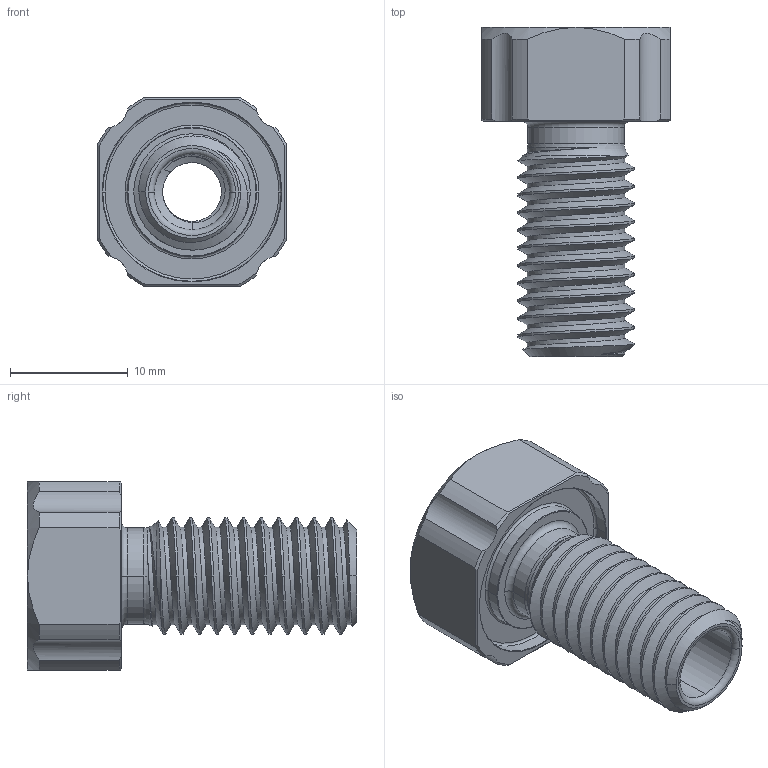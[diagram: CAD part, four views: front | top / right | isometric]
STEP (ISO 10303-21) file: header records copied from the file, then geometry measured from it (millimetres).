
FILE_DESCRIPTION (( 'STEP AP214' ), '1' );
FILE_NAME ('BR-102511_RevA.STEP', '2024-09-17T00:05:02', ( '' ), ( '' ), 'SwSTEP 2.0', 'SolidWorks 2024', '' );
FILE_SCHEMA (( 'AUTOMOTIVE_DESIGN' ));
Length unit declared in the file: millimetre
Products named in the file (1): BR-102511_RevA
Bounding box: 16 x 28 x 16 mm (x, y, z)
Volume: 1503.6 mm3; surface area: 2506.9 mm2
Topology: 1 solids, 1 shells, 118 faces, 312 edges, 200 vertices
Faces by surface type: cylinder 61, cone 26, plane 14, torus 11, bspline 6
Entity records: 8663 total; most frequent: CARTESIAN_POINT 6003, ORIENTED_EDGE 624, DIRECTION 494, EDGE_CURVE 312, AXIS2_PLACEMENT_3D 205, VERTEX_POINT 200, EDGE_LOOP 124, ADVANCED_FACE 118
